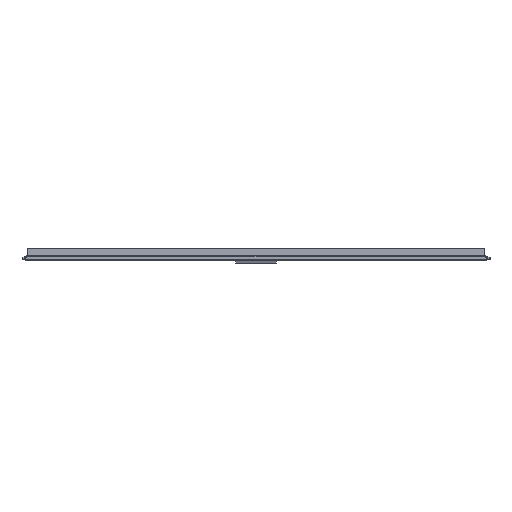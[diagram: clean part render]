
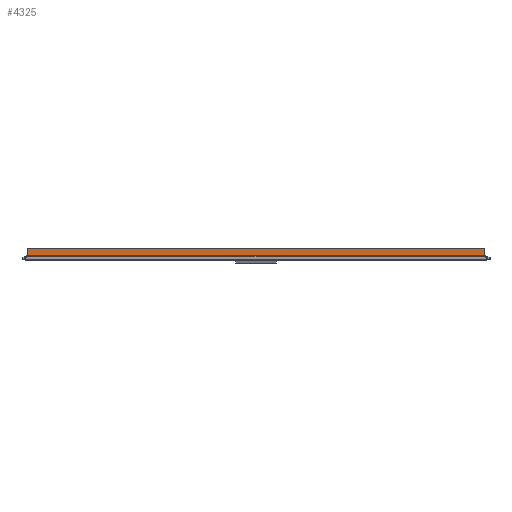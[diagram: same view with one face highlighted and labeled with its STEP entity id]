
A CAD part, left-side view. The second image highlights one B-rep face of the part: STEP entity #4325.
In plain terms, the highlighted planar face has unit normal (-1, 0, 0).
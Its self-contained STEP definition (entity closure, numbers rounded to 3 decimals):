
#154 = VECTOR ( 'NONE', #1066, 1000. ) ;
#185 = LINE ( 'NONE', #186, #8205 ) ;
#186 = CARTESIAN_POINT ( 'NONE',  ( -324.6, -856.75, 29.5 ) ) ;
#187 = DIRECTION ( 'NONE',  ( 0., -1., 0. ) ) ;
#188 = LINE ( 'NONE', #189, #8206 ) ;
#189 = CARTESIAN_POINT ( 'NONE',  ( -324.6, -856.75, 29.5 ) ) ;
#190 = DIRECTION ( 'NONE',  ( 0., 0., -1. ) ) ;
#194 = LINE ( 'NONE', #195, #8208 ) ;
#195 = CARTESIAN_POINT ( 'NONE',  ( -324.6, 856.75, 29.5 ) ) ;
#196 = DIRECTION ( 'NONE',  ( 0., 0., -1. ) ) ;
#1064 = LINE ( 'NONE', #1065, #154 ) ;
#1065 = CARTESIAN_POINT ( 'NONE',  ( -324.6, -856.75, -12. ) ) ;
#1066 = DIRECTION ( 'NONE',  ( 0., -1., 0. ) ) ;
#3919 = CARTESIAN_POINT ( 'NONE',  ( -324.6, 856.75, -12. ) ) ;
#3921 = CARTESIAN_POINT ( 'NONE',  ( -324.6, -856.75, -12. ) ) ;
#4082 = CARTESIAN_POINT ( 'NONE',  ( -324.6, 856.75, 29.5 ) ) ;
#4083 = CARTESIAN_POINT ( 'NONE',  ( -324.6, -856.75, 29.5 ) ) ;
#4325 = ADVANCED_FACE ( 'NONE', ( #8124 ), #7779, .F. ) ;
#4443 = EDGE_CURVE ( 'NONE', #7706, #7707, #185, .T. ) ;
#4444 = EDGE_CURVE ( 'NONE', #7707, #7545, #188, .T. ) ;
#4446 = EDGE_CURVE ( 'NONE', #7706, #7543, #194, .T. ) ;
#4736 = EDGE_CURVE ( 'NONE', #7543, #7545, #1064, .T. ) ;
#6205 = EDGE_LOOP ( 'NONE', ( #7072, #7073, #7071, #7074 ) ) ;
#7071 = ORIENTED_EDGE ( 'NONE', *, *, #4443, .F. ) ;
#7072 = ORIENTED_EDGE ( 'NONE', *, *, #4736, .T. ) ;
#7073 = ORIENTED_EDGE ( 'NONE', *, *, #4444, .F. ) ;
#7074 = ORIENTED_EDGE ( 'NONE', *, *, #4446, .T. ) ;
#7543 = VERTEX_POINT ( 'NONE', #3919 ) ;
#7545 = VERTEX_POINT ( 'NONE', #3921 ) ;
#7706 = VERTEX_POINT ( 'NONE', #4082 ) ;
#7707 = VERTEX_POINT ( 'NONE', #4083 ) ;
#7779 = PLANE ( 'NONE',  #8147 ) ;
#7780 = CARTESIAN_POINT ( 'NONE',  ( -324.6, -856.75, 29.5 ) ) ;
#7781 = DIRECTION ( 'NONE',  ( 1., 0., 0. ) ) ;
#7782 = DIRECTION ( 'NONE',  ( 0., 0., -1. ) ) ;
#8124 = FACE_OUTER_BOUND ( 'NONE', #6205, .T. ) ;
#8147 = AXIS2_PLACEMENT_3D ( 'NONE', #7780, #7781, #7782 ) ;
#8205 = VECTOR ( 'NONE', #187, 1000. ) ;
#8206 = VECTOR ( 'NONE', #190, 1000. ) ;
#8208 = VECTOR ( 'NONE', #196, 1000. ) ;
